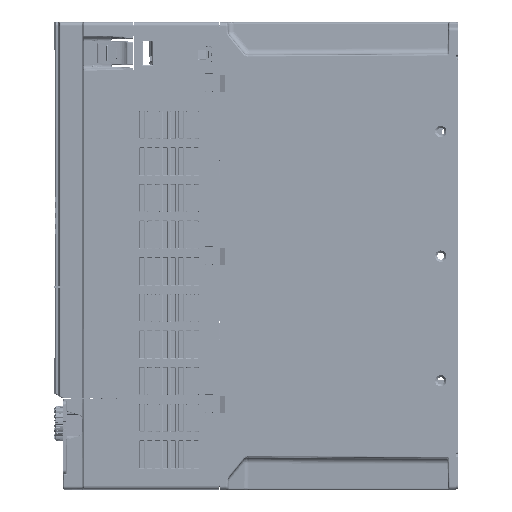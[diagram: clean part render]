
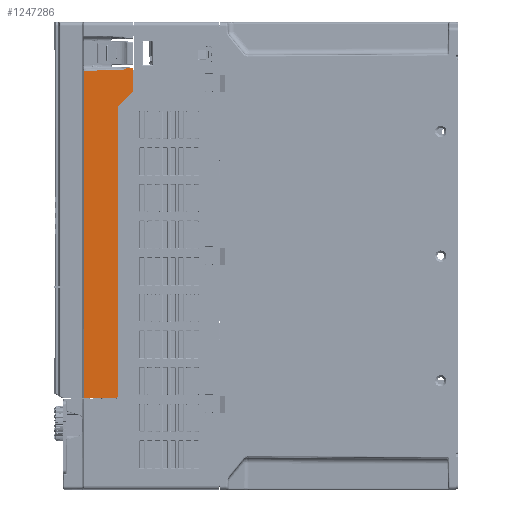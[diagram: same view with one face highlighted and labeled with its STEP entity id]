
A CAD part, left-side view. The second image highlights one B-rep face of the part: STEP entity #1247286.
In plain terms, the highlighted planar face has unit normal (-1, 0, 0).
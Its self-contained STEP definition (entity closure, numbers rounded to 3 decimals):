
#1236302=CARTESIAN_POINT('',(-281.858,117.732,
-166.305));
#1236356=CARTESIAN_POINT('',(-281.858,87.532,
30.851));
#1236357=DIRECTION('',(1.,0.,0.));
#1236358=DIRECTION('',(0.,-1.,0.));
#1236359=AXIS2_PLACEMENT_3D('',#1236356,#1236357,#1236358);
#1236364=DIRECTION('',(0.,0.707,-0.707));
#1236365=VECTOR('',#1236364,12.899);
#1236366=CARTESIAN_POINT('',(-281.858,86.683,
30.002));
#1236367=LINE('',#1236366,#1236365);
#1236371=CARTESIAN_POINT('',(-281.858,94.532,
19.608));
#1236372=DIRECTION('',(-1.,0.,0.));
#1236373=DIRECTION('',(0.,0.707,0.707));
#1236374=AXIS2_PLACEMENT_3D('',#1236371,#1236372,#1236373);
#1236379=CARTESIAN_POINT('',(-281.858,96.332,
-165.352));
#1236380=CARTESIAN_POINT('',(-281.858,96.332,
-165.686));
#1236381=CARTESIAN_POINT('',(-281.858,96.584,
-166.1));
#1236382=CARTESIAN_POINT('',(-281.858,96.998,
-166.352));
#1236383=CARTESIAN_POINT('',(-281.858,97.332,
-166.352));
#1236388=DIRECTION('',(0.,1.,0.));
#1236389=VECTOR('',#1236388,20.2);
#1236390=CARTESIAN_POINT('',(-281.858,97.332,
-166.352));
#1236391=LINE('',#1236390,#1236389);
#1236395=DIRECTION('',(0.,1.,0.009));
#1236396=VECTOR('',#1236395,0.2);
#1236397=CARTESIAN_POINT('',(-281.858,117.532,
-166.307));
#1236398=LINE('',#1236397,#1236396);
#1236402=DIRECTION('',(0.,0.,1.));
#1236403=VECTOR('',#1236402,210.209);
#1236404=CARTESIAN_POINT('',(-281.858,117.732,
-166.305));
#1236405=LINE('',#1236404,#1236403);
#1236409=CARTESIAN_POINT('',(-281.858,117.732,
43.903));
#1236410=CARTESIAN_POINT('',(-281.858,116.314,
43.905));
#1236411=CARTESIAN_POINT('',(-281.858,112.821,
43.91));
#1236412=CARTESIAN_POINT('',(-281.858,108.148,
43.924));
#1236413=CARTESIAN_POINT('',(-281.858,104.893,
43.938));
#1236414=CARTESIAN_POINT('',(-281.858,103.713,
43.943));
#1236426=DIRECTION('',(0.,0.,1.));
#1236427=VECTOR('',#1236426,14.522);
#1236428=CARTESIAN_POINT('',(-281.858,86.332,
30.851));
#1236429=LINE('',#1236428,#1236427);
#1236550=DIRECTION('',(0.,0.,1.));
#1236551=VECTOR('',#1236550,184.961);
#1236552=CARTESIAN_POINT('',(-281.858,96.332,
-165.352));
#1236553=LINE('',#1236552,#1236551);
#1236725=DIRECTION('',(0.,1.,0.009));
#1236726=VECTOR('',#1236725,4.258);
#1236727=CARTESIAN_POINT('',(-281.858,86.332,
45.372));
#1236728=LINE('',#1236727,#1236726);
#1236742=CARTESIAN_POINT('',(-281.858,90.59,
45.41));
#1236743=CARTESIAN_POINT('',(-281.858,90.713,
45.293));
#1236744=CARTESIAN_POINT('',(-281.858,90.991,
45.066));
#1236745=CARTESIAN_POINT('',(-281.858,91.518,
44.757));
#1236746=CARTESIAN_POINT('',(-281.858,92.163,
44.496));
#1236747=CARTESIAN_POINT('',(-281.858,92.925,
44.296));
#1236748=CARTESIAN_POINT('',(-281.858,93.803,
44.163));
#1236749=CARTESIAN_POINT('',(-281.858,94.463,
44.118));
#1236750=CARTESIAN_POINT('',(-281.858,94.812,
44.105));
#1237145=CARTESIAN_POINT('',(-281.858,94.812,
44.105));
#1237146=CARTESIAN_POINT('',(-281.858,95.782,
44.068));
#1237147=CARTESIAN_POINT('',(-281.858,97.735,
44.012));
#1237148=CARTESIAN_POINT('',(-281.858,100.702,
43.963));
#1237149=CARTESIAN_POINT('',(-281.858,102.705,
43.948));
#1237150=CARTESIAN_POINT('',(-281.858,103.713,
43.943));
#1244962=DIRECTION('',(0.,0.,-1.));
#1244963=VECTOR('',#1244962,0.045);
#1244964=CARTESIAN_POINT('',(-281.858,117.532,
-166.307));
#1244965=LINE('',#1244964,#1244963);
#1245590=VERTEX_POINT('',#1236302);
#1245591=CARTESIAN_POINT('',(-281.858,117.532,
-166.307));
#1245592=VERTEX_POINT('',#1245591);
#1245595=CARTESIAN_POINT('',(-281.858,97.332,
-166.352));
#1245596=CARTESIAN_POINT('',(-281.858,117.532,
-166.352));
#1245597=VERTEX_POINT('',#1245595);
#1245598=VERTEX_POINT('',#1245596);
#1245603=CARTESIAN_POINT('',(-281.858,86.332,
30.851));
#1245604=CARTESIAN_POINT('',(-281.858,86.332,
45.372));
#1245605=VERTEX_POINT('',#1245603);
#1245606=VERTEX_POINT('',#1245604);
#1245607=CARTESIAN_POINT('',(-281.858,86.683,
30.002));
#1245608=VERTEX_POINT('',#1245607);
#1245609=CARTESIAN_POINT('',(-281.858,95.805,
20.881));
#1245610=VERTEX_POINT('',#1245609);
#1245611=CARTESIAN_POINT('',(-281.858,96.332,
19.608));
#1245612=VERTEX_POINT('',#1245611);
#1245613=CARTESIAN_POINT('',(-281.858,96.332,
-165.352));
#1245614=VERTEX_POINT('',#1245613);
#1245615=CARTESIAN_POINT('',(-281.858,117.732,
43.903));
#1245616=VERTEX_POINT('',#1245615);
#1245617=VERTEX_POINT('',#1236414);
#1245618=VERTEX_POINT('',#1237145);
#1245619=VERTEX_POINT('',#1236742);
#1247253=CARTESIAN_POINT('',(-281.858,118.532,
-166.652));
#1247254=DIRECTION('',(-1.,0.,0.));
#1247255=DIRECTION('',(0.,-1.,0.));
#1247256=AXIS2_PLACEMENT_3D('',#1247253,#1247254,#1247255);
#1247257=PLANE('',#1247256);
#1247259=ORIENTED_EDGE('',*,*,#1247258,.F.);
#1247261=ORIENTED_EDGE('',*,*,#1247260,.T.);
#1247263=ORIENTED_EDGE('',*,*,#1247262,.T.);
#1247265=ORIENTED_EDGE('',*,*,#1247264,.T.);
#1247267=ORIENTED_EDGE('',*,*,#1247266,.F.);
#1247269=ORIENTED_EDGE('',*,*,#1247268,.T.);
#1247270=ORIENTED_EDGE('',*,*,#1247239,.T.);
#1247272=ORIENTED_EDGE('',*,*,#1247271,.F.);
#1247273=ORIENTED_EDGE('',*,*,#1247214,.T.);
#1247275=ORIENTED_EDGE('',*,*,#1247274,.T.);
#1247277=ORIENTED_EDGE('',*,*,#1247276,.T.);
#1247279=ORIENTED_EDGE('',*,*,#1247278,.F.);
#1247281=ORIENTED_EDGE('',*,*,#1247280,.F.);
#1247283=ORIENTED_EDGE('',*,*,#1247282,.F.);
#1247284=EDGE_LOOP('',(#1247259,#1247261,#1247263,#1247265,#1247267,#1247269,
#1247270,#1247272,#1247273,#1247275,#1247277,#1247279,#1247281,#1247283));
#1247285=FACE_OUTER_BOUND('',#1247284,.F.);
#1236360=CIRCLE('',#1236359,1.2);
#1236375=CIRCLE('',#1236374,1.8);
#1236384=B_SPLINE_CURVE_WITH_KNOTS('',3,(#1236379,#1236380,#1236381,#1236382,
#1236383),.UNSPECIFIED.,.F.,.F.,(4,1,4),(0.,0.5,1.),.UNSPECIFIED.);
#1236415=B_SPLINE_CURVE_WITH_KNOTS('',3,(#1236409,#1236410,#1236411,#1236412,
#1236413,#1236414),.UNSPECIFIED.,.F.,.F.,(4,1,1,4),(0.,0.303,
0.747,1.),.UNSPECIFIED.);
#1236751=B_SPLINE_CURVE_WITH_KNOTS('',3,(#1236742,#1236743,#1236744,#1236745,
#1236746,#1236747,#1236748,#1236749,#1236750),.UNSPECIFIED.,.F.,.F.,(4,1,1,1,1,
1,4),(0.,0.167,0.333,0.5,0.667,
0.833,1.),.UNSPECIFIED.);
#1237151=B_SPLINE_CURVE_WITH_KNOTS('',3,(#1237145,#1237146,#1237147,#1237148,
#1237149,#1237150),.UNSPECIFIED.,.F.,.F.,(4,1,1,4),(0.,0.333,
0.667,1.),.UNSPECIFIED.);
#1247214=EDGE_CURVE('',#1245592,#1245590,#1236398,.T.);
#1247239=EDGE_CURVE('',#1245597,#1245598,#1236391,.T.);
#1247258=EDGE_CURVE('',#1245605,#1245606,#1236429,.T.);
#1247260=EDGE_CURVE('',#1245605,#1245608,#1236360,.T.);
#1247262=EDGE_CURVE('',#1245608,#1245610,#1236367,.T.);
#1247264=EDGE_CURVE('',#1245610,#1245612,#1236375,.T.);
#1247266=EDGE_CURVE('',#1245614,#1245612,#1236553,.T.);
#1247268=EDGE_CURVE('',#1245614,#1245597,#1236384,.T.);
#1247271=EDGE_CURVE('',#1245592,#1245598,#1244965,.T.);
#1247274=EDGE_CURVE('',#1245590,#1245616,#1236405,.T.);
#1247276=EDGE_CURVE('',#1245616,#1245617,#1236415,.T.);
#1247278=EDGE_CURVE('',#1245618,#1245617,#1237151,.T.);
#1247280=EDGE_CURVE('',#1245619,#1245618,#1236751,.T.);
#1247282=EDGE_CURVE('',#1245606,#1245619,#1236728,.T.);
#1247286=ADVANCED_FACE('',(#1247285),#1247257,.T.);
